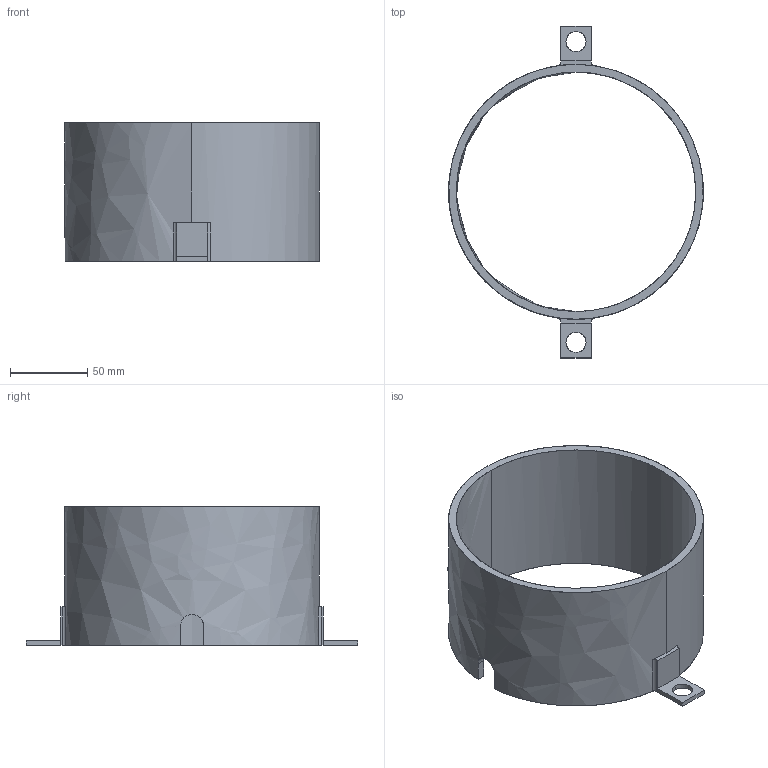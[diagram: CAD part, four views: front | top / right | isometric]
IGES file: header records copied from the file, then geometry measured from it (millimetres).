
Global section: file name: E:\UnigraphicsGraphicData\MISUMI_PRESS-PARTS\IGES\3d_ph100-90-r_07050_r00.igs; native system: NX V5.0; preprocessor: UGS NX IGES V5.0; author: MISUMI; date: 20110105.162242; units: millimetre
Bounding box: 165.2 x 215.2 x 90 mm (x, y, z)
Surface area: 100070.7 mm2 (no closed solid volume)
Topology: 0 solids, 0 shells, 41 faces, 290 edges, 290 vertices
Faces by surface type: bspline 41
